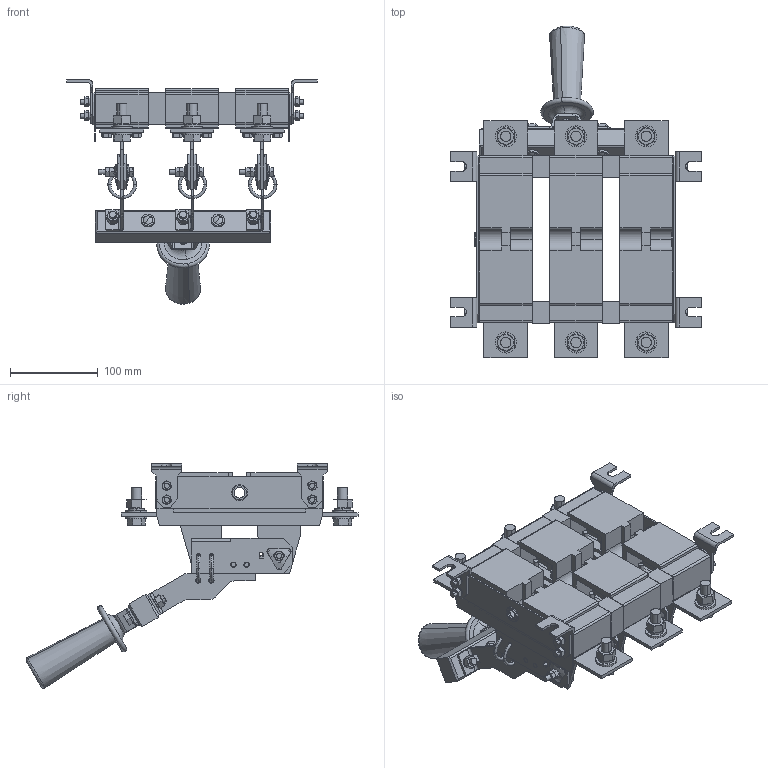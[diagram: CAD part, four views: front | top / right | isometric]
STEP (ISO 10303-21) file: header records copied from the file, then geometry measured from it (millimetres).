
FILE_DESCRIPTION (( 'STEP AP214' ), '1' );
FILE_NAME ('Ðàçúåäèíèòåëü ÐÅ19-39-31110-630À-ÓÕË3-ÊÝÀÇ.STEP', '2023-08-21T08:39:50', ( '' ), ( '' ), 'SwSTEP 2.0', 'SolidWorks 2018', '' );
FILE_SCHEMA (( 'AUTOMOTIVE_DESIGN' ));
Length unit declared in the file: millimetre
Products named in the file (1): Ðàçúåäèíèòåëü ÐÅ19-39-31110-630À-ÓÕË3-ÊÝÀÇ
Bounding box: 286 x 378.34 x 255.79 mm (x, y, z)
Surface area: 569785.9 mm2 (no closed solid volume)
Topology: 0 solids, 230 shells, 1758 faces, 5738 edges, 4192 vertices
Faces by surface type: plane 1047, cylinder 445, cone 178, torus 66, sphere 22
Entity records: 85177 total; most frequent: CARTESIAN_POINT 16099, DIRECTION 10350, ORIENTED_EDGE 9125, EDGE_CURVE 5714, VERTEX_POINT 4192, AXIS2_PLACEMENT_3D 3695, VECTOR 2960, LINE 2960
